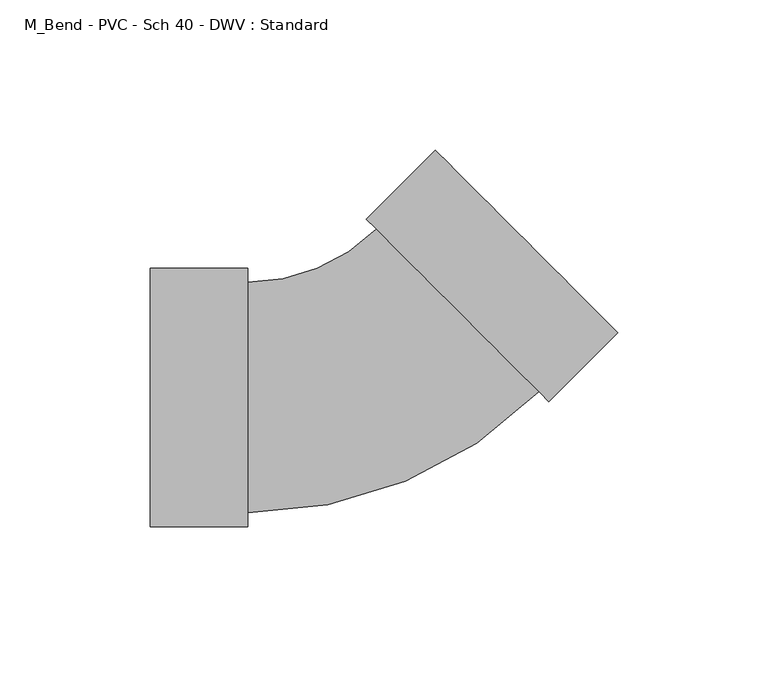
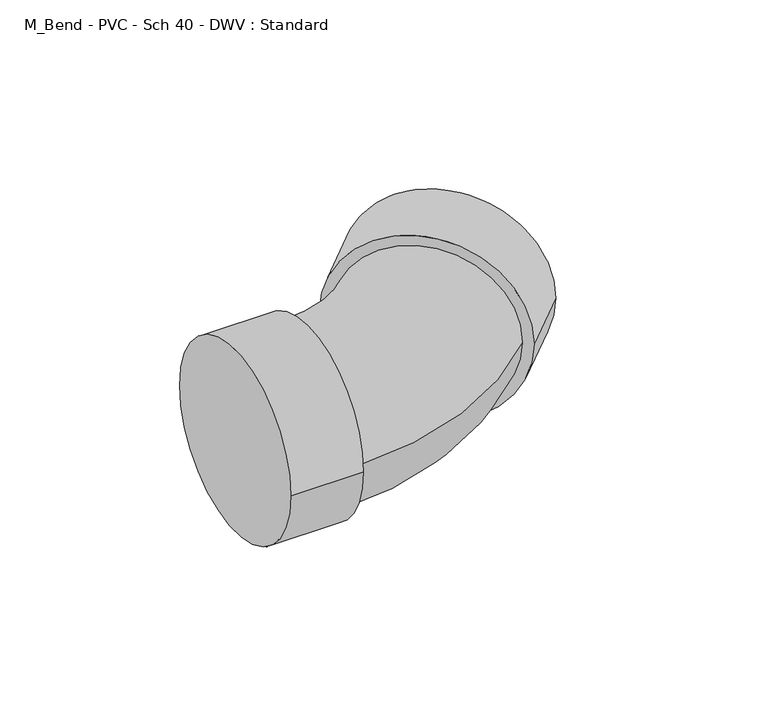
"""IFC4 building model written with IfcOpenShell, lengths in millimetres: pipe fitting geometry, M_Bend - PVC - Sch 40 - DWV : Standard."""

from ifc_helpers import new_model, si_unit, point, frame, origin, place, context, project, spatial, circle_curve, ellipse_curve, trimmed, source, transform, mapped, element, save
from ifc_brep_helpers import plane_surface, cylinder_surface, revolved_surface, advanced_brep


def m_bend_pvc_sch_40_dwv_standard_14735a05(model_context):
    return source(origin(), model_context, "Body", "AdvancedBrep", [
        advanced_brep(
        [(-73.4921875, -43.0871094, 0.0), (-73.4921875, 43.0871094, 0.0), (-40.9921875, -43.0871094, 0.0), (-40.9921875, 43.0871094, 0.0), (-40.9921875, -38.3640625, 0.0), (-40.9921875, 38.3640625, 0.0), (1.858365, 56.1133425, 0.0), (56.1133425, 1.858365, 0.0), (59.453041, -1.4813335, 0.0), (-1.4813335, 59.453041, 0.0), (82.4340114, 21.4996369, 0.0), (21.4996369, 82.4340114, 0.0)],
        [
            (0, 1, circle_curve(frame((-73.4921875, 0.0, 0.0), z_axis=(-1.0, 0.0, 0.0), x_axis=(0.0, 1.0, 0.0)), 43.0871094)),
            (1, 0, circle_curve(frame((-73.4921875, 0.0, 0.0), z_axis=(-1.0, 0.0, 0.0), x_axis=(0.0, 1.0, 0.0)), 43.0871094)),
            (2, 3, circle_curve(frame((-40.9921875, 0.0, 0.0), z_axis=(1.0, 0.0, 0.0), x_axis=(0.0, 1.0, 0.0)), 43.0871094)),
            (3, 2, circle_curve(frame((-40.9921875, 0.0, 0.0), z_axis=(1.0, 0.0, 0.0), x_axis=(0.0, 1.0, 0.0)), 43.0871094)),
            (4, 5, circle_curve(frame((-40.9921875, 0.0, 0.0), z_axis=(-1.0, 0.0, 0.0), x_axis=(0.0, 1.0, 0.0)), 38.3640625)),
            (5, 4, circle_curve(frame((-40.9921875, 0.0, 0.0), z_axis=(-1.0, 0.0, 0.0), x_axis=(0.0, 1.0, 0.0)), 38.3640625)),
            (0, 2),
            (3, 1),
            (6, 5, circle_curve(frame((-40.9921875, 98.963895, 0.0), z_axis=(0.0, 0.0, -1.0), x_axis=(0.0, -1.0, 0.0)), 60.5998325)),
            (4, 7, circle_curve(frame((-40.9921875, 98.963895, 0.0), z_axis=(0.0, 0.0, 1.0), x_axis=(0.0, -1.0, 0.0)), 137.3279575)),
            (7, 6, circle_curve(frame((28.9858538, 28.9858538, 0.0), z_axis=(-0.707106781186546, -0.707106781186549, 0.0), x_axis=(-0.707106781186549, 0.707106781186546, 0.0)), 38.3640625)),
            (6, 7, circle_curve(frame((28.9858538, 28.9858538, 0.0), z_axis=(-0.707106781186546, -0.707106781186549, 0.0), x_axis=(-0.707106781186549, 0.707106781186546, 0.0)), 38.3640625)),
            (8, 9, circle_curve(frame((28.9858538, 28.9858538, 0.0), z_axis=(-0.7071067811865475, -0.7071067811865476, 0.0), x_axis=(-0.7071067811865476, 0.7071067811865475, 0.0)), 43.0871094)),
            (9, 8, circle_curve(frame((28.9858538, 28.9858538, 0.0), z_axis=(-0.7071067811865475, -0.7071067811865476, 0.0), x_axis=(-0.7071067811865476, 0.7071067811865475, 0.0)), 43.0871094)),
            (10, 11, circle_curve(frame((51.9668241, 51.9668241, 0.0), z_axis=(0.7071067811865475, 0.7071067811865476, 0.0), x_axis=(-0.7071067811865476, 0.7071067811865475, 0.0)), 43.0871094)),
            (11, 10, circle_curve(frame((51.9668241, 51.9668241, 0.0), z_axis=(0.7071067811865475, 0.7071067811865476, 0.0), x_axis=(-0.7071067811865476, 0.7071067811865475, 0.0)), 43.0871094)),
            (8, 10),
            (11, 9),
        ],
        [
            plane_surface(frame((-73.4921875, 0.0, 0.0), z_axis=(-1.0, 0.0, 0.0), x_axis=(0.0, 0.0, 1.0))),
            plane_surface(frame((-40.9921875, 0.0, 0.0), z_axis=(1.0, 0.0, 0.0), x_axis=(0.0, 0.0, 1.0))),
            cylinder_surface(frame((-73.4921875, 0.0, 0.0), z_axis=(-1.0, 0.0, 0.0), x_axis=(0.0, 1.0, 0.0)), 43.0871094),
            revolved_surface(trimmed(ellipse_curve(frame((-40.9921875, 0.0, 0.0), z_axis=(-1.0, 0.0, 0.0), x_axis=(0.0, 1.0, 0.0)), 38.3640625, 38.3640625), [point((-40.9921875, -38.3640625, 0.0))], [point((-40.9921875, 38.3640625, 0.0))], True, "CARTESIAN"), (-40.9921875, 98.963895, 0.0), (0.0, 0.0, 1.0)),
            revolved_surface(trimmed(ellipse_curve(frame((-40.9921875, 0.0, 0.0), z_axis=(-1.0, 0.0, 0.0), x_axis=(0.0, 1.0, 0.0)), 38.3640625, 38.3640625), [point((-40.9921875, 38.3640625, 0.0))], [point((-40.9921875, -38.3640625, 0.0))], True, "CARTESIAN"), (-40.9921875, 98.963895, 0.0), (0.0, 0.0, 1.0)),
            plane_surface(frame((28.9858538, 28.9858538, 0.0), z_axis=(-0.7071067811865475, -0.7071067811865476, 0.0), x_axis=(0.0, 0.0, 1.0))),
            plane_surface(frame((51.9668241, 51.9668241, 0.0), z_axis=(0.7071067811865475, 0.7071067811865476, 0.0), x_axis=(0.0, 0.0, 1.0))),
            cylinder_surface(frame((28.9858538, 28.9858538, 0.0), z_axis=(-0.7071067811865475, -0.7071067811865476, 0.0), x_axis=(-0.7071067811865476, 0.7071067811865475, 0.0)), 43.0871094),
        ],
        [
            (0, [[1, 2]]),
            (1, [[3, 4], [5, 6]]),
            (2, [[-1, 7, -4, 8]]),
            (2, [[-2, -8, -3, -7]]),
            (3, [[9, -5, 10, 11]]),
            (4, [[-9, 12, -10, -6]]),
            (5, [[13, 14], [-11, -12]]),
            (6, [[15, 16]]),
            (7, [[-13, 17, -16, 18]]),
            (7, [[-14, -18, -15, -17]]),
        ],
    ),
    ])


if __name__ == "__main__":
    model = new_model("IFC4")
    model_context = context("Model", 3, world=origin())
    ifc_project = project(units=[si_unit("LENGTHUNIT", "METRE", prefix="MILLI")], contexts=[model_context])
    site = spatial("IfcSite", under=ifc_project)
    building = spatial("IfcBuilding", under=site)
    placement = place(None, origin())
    m_bend_pvc_sch_40_dwv_standard_shape = m_bend_pvc_sch_40_dwv_standard_14735a05(model_context)
    element("IfcPipeFitting", 1, ObjectType="M_Bend - PVC - Sch 40 - DWV : Standard", at=placement, inside=building, context=model_context, shape_type="MappedRepresentation", body=[
        mapped(m_bend_pvc_sch_40_dwv_standard_shape, transform((0.0, 0.0, 0.0), x_axis=(1.0, 0.0, 0.0), y_axis=(0.0, 1.0, 0.0), z_axis=(0.0, 0.0, 1.0))),
    ])
    save(model, "model.ifc")
